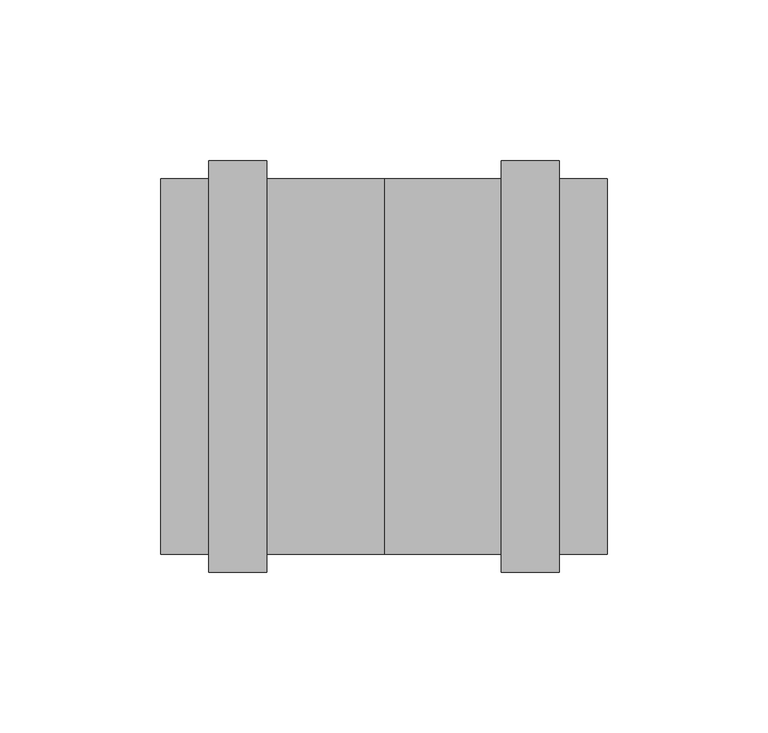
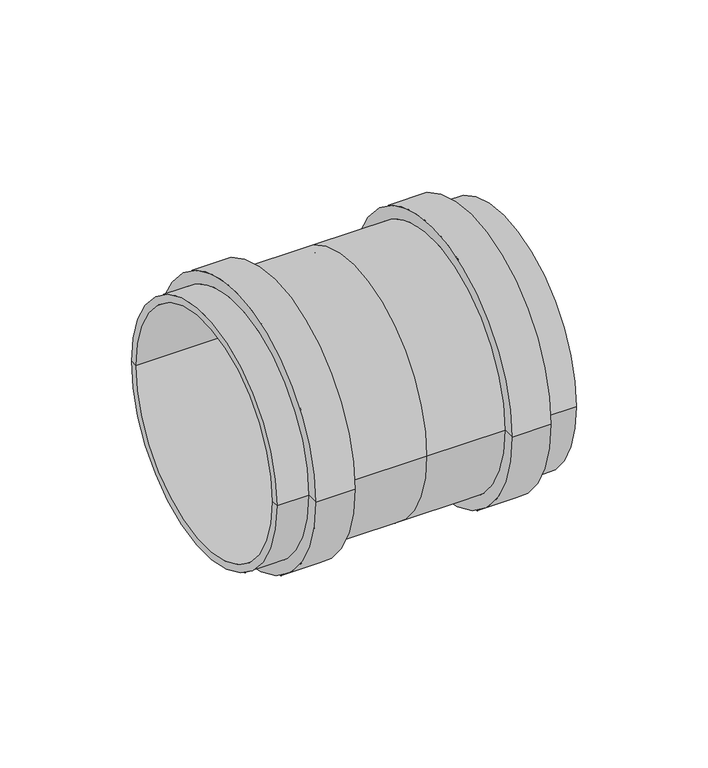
"""IFC4 building model written with IfcOpenShell, lengths in millimetres: pipe fitting geometry, OSMA_KG2000_PPKGMM : Spojka dvouhrdlá."""

from ifc_helpers import new_model, si_unit, frame, origin, place, context, project, spatial, polyline, circle_curve, source, transform, mapped, element, save
from ifc_brep_helpers import plane_surface, cylinder_surface, revolved_surface, advanced_brep


def pipe_fitting_c26b3ca0(model_context):
    return source(origin(), model_context, "Body", "AdvancedBrep", [
        advanced_brep(
        [(-69.5, -55.0, 0.0), (-69.5, 55.0, 0.0), (-69.5, 58.4, 0.0), (-69.5, -58.4, 0.0), (-36.5, -64.0, 0.0), (-36.5, 64.0, 0.0), (-36.5, 58.4, 0.0), (-36.5, -58.4, 0.0), (-54.5, -64.0, 0.0), (-54.5, 64.0, 0.0), (-54.5, -58.4, 0.0), (-54.5, 58.4, 0.0), (0.0, 58.4, 0.0), (0.0, -58.4, 0.0), (54.5, -64.0, 0.0), (54.5, 64.0, 0.0), (54.5, 58.4, 0.0), (54.5, -58.4, 0.0), (36.5, -64.0, 0.0), (36.5, 64.0, 0.0), (36.5, -58.4, 0.0), (36.5, 58.4, 0.0), (69.5, 58.4, 0.0), (69.5, -58.4, 0.0), (69.5, 55.0, 0.0), (69.5, -55.0, 0.0), (0.0, -55.0, 0.0), (0.0, 55.0, 0.0)],
        [
            (0, 1, circle_curve(frame((-69.5, 0.0, 0.0), z_axis=(1.0, 0.0, 0.0), x_axis=(0.0, 1.0, 0.0)), 55.0)),
            (1, 2),
            (2, 3, circle_curve(frame((-69.5, 0.0, 0.0), z_axis=(-1.0, 0.0, 0.0), x_axis=(0.0, 1.0, 0.0)), 58.4)),
            (3, 0),
            (1, 0, circle_curve(frame((-69.5, 0.0, 0.0), z_axis=(1.0, 0.0, 0.0), x_axis=(0.0, 1.0, 0.0)), 55.0)),
            (3, 2, circle_curve(frame((-69.5, 0.0, 0.0), z_axis=(-1.0, 0.0, 0.0), x_axis=(0.0, 1.0, 0.0)), 58.4)),
            (4, 5, circle_curve(frame((-36.5, 0.0, 0.0), z_axis=(1.0, 0.0, 0.0), x_axis=(0.0, 1.0, 0.0)), 64.0)),
            (5, 6),
            (6, 7, circle_curve(frame((-36.5, 0.0, 0.0), z_axis=(-1.0, 0.0, 0.0), x_axis=(0.0, 1.0, 0.0)), 58.4)),
            (7, 4),
            (5, 4, circle_curve(frame((-36.5, 0.0, 0.0), z_axis=(1.0, 0.0, 0.0), x_axis=(0.0, 1.0, 0.0)), 64.0)),
            (7, 6, circle_curve(frame((-36.5, 0.0, 0.0), z_axis=(-1.0, 0.0, 0.0), x_axis=(0.0, 1.0, 0.0)), 58.4)),
            (4, 8),
            (8, 9, circle_curve(frame((-54.5, 0.0, 0.0), z_axis=(1.0, 0.0, 0.0), x_axis=(0.0, 1.0, 0.0)), 64.0)),
            (9, 5),
            (9, 8, circle_curve(frame((-54.5, 0.0, 0.0), z_axis=(1.0, 0.0, 0.0), x_axis=(0.0, 1.0, 0.0)), 64.0)),
            (8, 10),
            (10, 11, circle_curve(frame((-54.5, 0.0, 0.0), z_axis=(1.0, 0.0, 0.0), x_axis=(0.0, 1.0, 0.0)), 58.4)),
            (11, 9),
            (11, 10, circle_curve(frame((-54.5, 0.0, 0.0), z_axis=(1.0, 0.0, 0.0), x_axis=(0.0, 1.0, 0.0)), 58.4)),
            (2, 11),
            (10, 3),
            (6, 12),
            (12, 13, circle_curve(frame((0.0, 0.0, 0.0), z_axis=(-1.0, 0.0, 0.0), x_axis=(0.0, 1.0, 0.0)), 58.4)),
            (13, 7),
            (13, 12, circle_curve(frame((0.0, 0.0, 0.0), z_axis=(-1.0, 0.0, 0.0), x_axis=(0.0, 1.0, 0.0)), 58.4)),
            (14, 15, circle_curve(frame((54.5, 0.0, 0.0), z_axis=(1.0, 0.0, 0.0), x_axis=(0.0, 1.0, 0.0)), 64.0)),
            (15, 16),
            (16, 17, circle_curve(frame((54.5, 0.0, 0.0), z_axis=(-1.0, 0.0, 0.0), x_axis=(0.0, 1.0, 0.0)), 58.4)),
            (17, 14),
            (15, 14, circle_curve(frame((54.5, 0.0, 0.0), z_axis=(1.0, 0.0, 0.0), x_axis=(0.0, 1.0, 0.0)), 64.0)),
            (17, 16, circle_curve(frame((54.5, 0.0, 0.0), z_axis=(-1.0, 0.0, 0.0), x_axis=(0.0, 1.0, 0.0)), 58.4)),
            (14, 18),
            (18, 19, circle_curve(frame((36.5, 0.0, 0.0), z_axis=(1.0, 0.0, 0.0), x_axis=(0.0, 1.0, 0.0)), 64.0)),
            (19, 15),
            (19, 18, circle_curve(frame((36.5, 0.0, 0.0), z_axis=(1.0, 0.0, 0.0), x_axis=(0.0, 1.0, 0.0)), 64.0)),
            (18, 20),
            (20, 21, circle_curve(frame((36.5, 0.0, 0.0), z_axis=(1.0, 0.0, 0.0), x_axis=(0.0, 1.0, 0.0)), 58.4)),
            (21, 19),
            (21, 20, circle_curve(frame((36.5, 0.0, 0.0), z_axis=(1.0, 0.0, 0.0), x_axis=(0.0, 1.0, 0.0)), 58.4)),
            (20, 13),
            (12, 21),
            (16, 22),
            (22, 23, circle_curve(frame((69.5, 0.0, 0.0), z_axis=(-1.0, 0.0, 0.0), x_axis=(0.0, 1.0, 0.0)), 58.4)),
            (23, 17),
            (23, 22, circle_curve(frame((69.5, 0.0, 0.0), z_axis=(-1.0, 0.0, 0.0), x_axis=(0.0, 1.0, 0.0)), 58.4)),
            (22, 24),
            (24, 25, circle_curve(frame((69.5, 0.0, 0.0), z_axis=(-1.0, 0.0, 0.0), x_axis=(0.0, 1.0, 0.0)), 55.0)),
            (25, 23),
            (25, 24, circle_curve(frame((69.5, 0.0, 0.0), z_axis=(-1.0, 0.0, 0.0), x_axis=(0.0, 1.0, 0.0)), 55.0)),
            (0, 26),
            (26, 27, circle_curve(frame((0.0, 0.0, 0.0), z_axis=(1.0, 0.0, 0.0), x_axis=(0.0, 1.0, 0.0)), 55.0)),
            (27, 1),
            (27, 26, circle_curve(frame((0.0, 0.0, 0.0), z_axis=(1.0, 0.0, 0.0), x_axis=(0.0, 1.0, 0.0)), 55.0)),
            (24, 27),
            (26, 25),
        ],
        [
            plane_surface(frame((-69.5, 0.0, 0.0), z_axis=(-1.0, 0.0, 0.0), x_axis=(0.0, 1.0, 0.0))),
            plane_surface(frame((-36.5, 0.0, 0.0), z_axis=(1.0, 0.0, 0.0), x_axis=(0.0, 1.0, 0.0))),
            cylinder_surface(frame((270.0, 0.0, 0.0), z_axis=(-1.0, 0.0, 0.0), x_axis=(0.0, 1.0, 0.0)), 64.0),
            plane_surface(frame((-54.5, 0.0, 0.0), z_axis=(-1.0, 0.0, 0.0), x_axis=(0.0, 1.0, 0.0))),
            cylinder_surface(frame((270.0, 0.0, 0.0), z_axis=(-1.0, 0.0, 0.0), x_axis=(0.0, 1.0, 0.0)), 58.4),
            plane_surface(frame((54.5, 0.0, 0.0), z_axis=(1.0, 0.0, 0.0), x_axis=(0.0, 1.0, 0.0))),
            plane_surface(frame((36.5, 0.0, 0.0), z_axis=(-1.0, 0.0, 0.0), x_axis=(0.0, 1.0, 0.0))),
            plane_surface(frame((69.5, 0.0, 0.0), z_axis=(1.0, 0.0, 0.0), x_axis=(0.0, 1.0, 0.0))),
            revolved_surface(polyline([(-69.5, 55.0, 0.0), (0.0, 55.0, 0.0)]), (270.0, 0.0, 0.0), (-1.0, 0.0, 0.0)),
            revolved_surface(polyline([(0.0, 55.0, 0.0), (69.5, 55.0, 0.0)]), (270.0, 0.0, 0.0), (-1.0, 0.0, 0.0)),
        ],
        [
            (0, [[1, 2, 3, 4]]),
            (0, [[-2, 5, -4, 6]]),
            (1, [[7, 8, 9, 10]]),
            (1, [[-8, 11, -10, 12]]),
            (2, [[-7, 13, 14, 15]]),
            (2, [[-11, -15, 16, -13]]),
            (3, [[-14, 17, 18, 19]]),
            (3, [[-16, -19, 20, -17]]),
            (4, [[-3, 21, -18, 22]]),
            (4, [[-6, -22, -20, -21]]),
            (4, [[-9, 23, 24, 25]]),
            (4, [[-12, -25, 26, -23]]),
            (5, [[27, 28, 29, 30]]),
            (5, [[-28, 31, -30, 32]]),
            (2, [[-27, 33, 34, 35]]),
            (2, [[-31, -35, 36, -33]]),
            (6, [[-34, 37, 38, 39]]),
            (6, [[-36, -39, 40, -37]]),
            (4, [[-38, 41, -24, 42]]),
            (4, [[-40, -42, -26, -41]]),
            (4, [[-29, 43, 44, 45]]),
            (4, [[-32, -45, 46, -43]]),
            (7, [[-44, 47, 48, 49]]),
            (7, [[-46, -49, 50, -47]]),
            (8, [[-1, 51, 52, 53]]),
            (8, [[-5, -53, 54, -51]]),
            (9, [[-48, 55, -52, 56]]),
            (9, [[-50, -56, -54, -55]]),
        ],
    ),
    ])


if __name__ == "__main__":
    model = new_model("IFC4")
    model_context = context("Model", 3, world=origin())
    ifc_project = project(units=[si_unit("LENGTHUNIT", "METRE", prefix="MILLI")], contexts=[model_context])
    site = spatial("IfcSite", under=ifc_project)
    building = spatial("IfcBuilding", under=site)
    placement = place(None, origin())
    pipe_fitting_shape = pipe_fitting_c26b3ca0(model_context)
    element("IfcPipeFitting", 1, ObjectType="OSMA_KG2000_PPKGMM : Spojka dvouhrdlá", at=placement, inside=building, context=model_context, shape_type="MappedRepresentation", body=[
        mapped(pipe_fitting_shape, transform((0.0, 0.0, 0.0), x_axis=(1.0, 0.0, 0.0), y_axis=(0.0, 1.0, 0.0), z_axis=(0.0, 0.0, 1.0))),
    ])
    save(model, "model.ifc")
